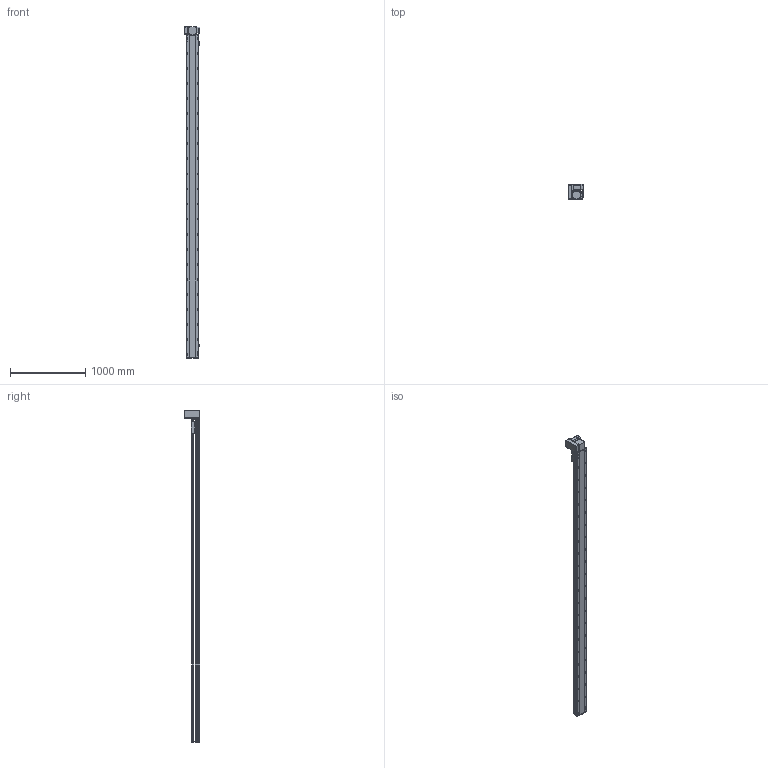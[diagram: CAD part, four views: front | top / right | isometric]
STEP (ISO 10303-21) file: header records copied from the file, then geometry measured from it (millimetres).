
FILE_DESCRIPTION (( 'STEP AP214' ), '1' );
FILE_NAME ('RTB17S-XX-4000-LW-M75-C4.STEP', '2025-12-12T01:25:58', ( '' ), ( '' ), 'SwSTEP 2.0', 'SolidWorks 2018', '' );
FILE_SCHEMA (( 'AUTOMOTIVE_DESIGN' ));
Length unit declared in the file: millimetre
Products named in the file (15): RTB22S-GY-018P^RTB17S-LW-々湍釱蚾饜-750W_RTB17S-XX-XX-LW-M75-C4; RTB22S-GY-008-M75--萇儂啣^RTB17S-LW-々湍釱蚾饜-750W_RTB17S-XX-XX-LW-M75-C4; RTB17S-L-014-T20-P75--々湍釱^RTB17S-LW-々湍釱蚾饜-750W_RTB17S-XX-XX-LW-M75-C4; EE672^RTB17S-XX-XX-LW-M75-C4; RTB17S-賑釱^RTB17S-XX-XX-LW-M75-C4; RTH13-BL-012覜茼え俋离^RTB17S-賑釱_RTB17S-XX-XX-LW-M75-C4; RTB22S-GY-017P^RTB17S-LW-々湍釱蚾饜-750W_RTB17S-XX-XX-LW-M75-C4; RTB17-R-011菁釱^RTB17S-XX-XX-LW-M75-C4; RTB17S-L-004-賑釱^RTB17S-賑釱_RTB17S-XX-XX-LW-M75-C4; 750W萇儂^RTB17S-XX-XX-LW-M75-C4; RTB17S-XX-4000-LW-M75-C4; RTB22S-GY-005P^RTB17S-LW-々湍釱蚾饜-750W_RTB17S-XX-XX-LW-M75-C4; RTB17S-L-007奻裔^RTB17S-XX-XX-LW-M75-C4; RTB17S-L-001-耜醱啣^RTB17S-XX-XX-LW-M75-C4; RTB17S-LW-々湍釱蚾饜-750W^RTB17S-XX-XX-LW-M75-C4
Assembly tree (17 placements, depth 3):
  RTB17S-XX-4000-LW-M75-C4
    RTB17-R-011菁釱^RTB17S-XX-XX-LW-M75-C4
    EE672^RTB17S-XX-XX-LW-M75-C4  x3
    RTB17S-L-001-耜醱啣^RTB17S-XX-XX-LW-M75-C4
    RTB17S-賑釱^RTB17S-XX-XX-LW-M75-C4
      RTB17S-L-004-賑釱^RTB17S-賑釱_RTB17S-XX-XX-LW-M75-C4
      RTH13-BL-012覜茼え俋离^RTB17S-賑釱_RTB17S-XX-XX-LW-M75-C4
    RTB17S-L-007奻裔^RTB17S-XX-XX-LW-M75-C4
    750W萇儂^RTB17S-XX-XX-LW-M75-C4
    RTB17S-LW-々湍釱蚾饜-750W^RTB17S-XX-XX-LW-M75-C4
      RTB17S-L-014-T20-P75--々湍釱^RTB17S-LW-々湍釱蚾饜-750W_RTB17S-XX-XX-LW-M75-C4
      RTB22S-GY-005P^RTB17S-LW-々湍釱蚾饜-750W_RTB17S-XX-XX-LW-M75-C4
      RTB22S-GY-017P^RTB17S-LW-々湍釱蚾饜-750W_RTB17S-XX-XX-LW-M75-C4  x2
      RTB22S-GY-008-M75--萇儂啣^RTB17S-LW-々湍釱蚾饜-750W_RTB17S-XX-XX-LW-M75-C4
      RTB22S-GY-018P^RTB17S-LW-々湍釱蚾饜-750W_RTB17S-XX-XX-LW-M75-C4
Bounding box: 210.4 x 201.5 x 4407.5 mm (x, y, z)
Volume: 30957236.7 mm3; surface area: 5755007.4 mm2
Topology: 17 solids, 17 shells, 2329 faces, 6592 edges, 4274 vertices
Faces by surface type: plane 1000, cylinder 913, bspline 294, cone 110, sphere 8, torus 4
Entity records: 69622 total; most frequent: CARTESIAN_POINT 20856, ORIENTED_EDGE 10028, DIRECTION 9212, EDGE_CURVE 5014, AXIS2_PLACEMENT_3D 3294, VERTEX_POINT 3278, VECTOR 2624, LINE 2624
